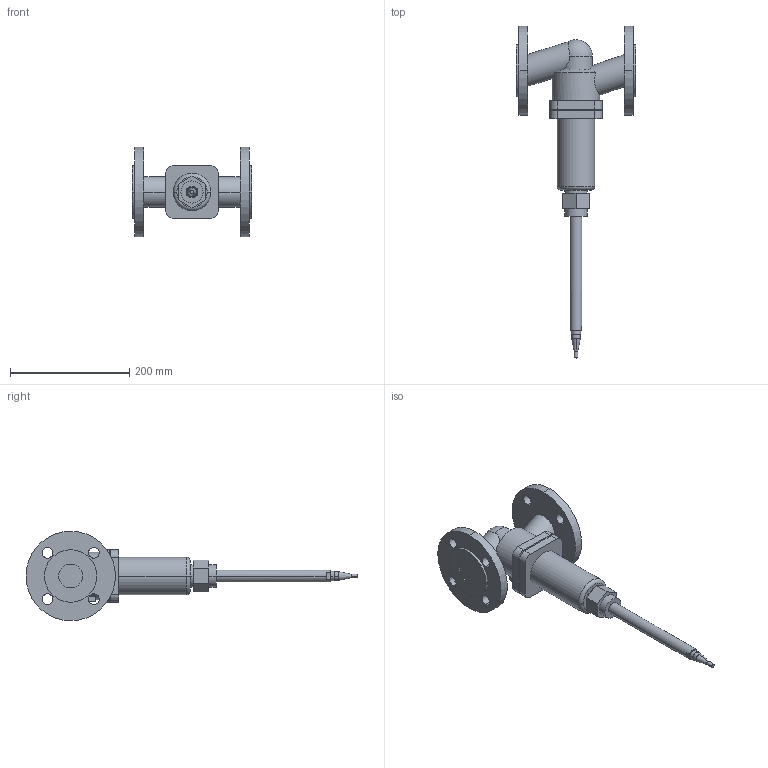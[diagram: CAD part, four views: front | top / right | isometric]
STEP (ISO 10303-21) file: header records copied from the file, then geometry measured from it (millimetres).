
FILE_DESCRIPTION(('CoCreate Modeling STEP Export'),'2;1');
FILE_NAME('c000001234.stp','2011-09-21T 8:38:49',(''),(''),'CoCreate Modeling STEP processor for AP214 (Solid Model)','CoCreate Modeling 17.0 01-Apr-2010 (C) Parametric Technology GmbH','');
FILE_SCHEMA(('AUTOMOTIVE_DESIGN { 1 0 10303 214 1 1 1 1 }'));
Length unit declared in the file: millimetre
Products named in the file (1): 1
Bounding box: 200 x 556.94 x 150 mm (x, y, z)
Volume: 1847916 mm3; surface area: 194609 mm2
Topology: 1 solids, 1 shells, 120 faces, 295 edges, 194 vertices
Faces by surface type: cylinder 60, plane 52, cone 4, torus 2, sphere 2
Entity records: 5764 total; most frequent: CARTESIAN_POINT 2117, ORIENTED_EDGE 586, DIRECTION 493, EDGE_CURVE 293, VERTEX_POINT 194, AXIS2_PLACEMENT_3D 174, EDGE_LOOP 155, VECTOR 145
